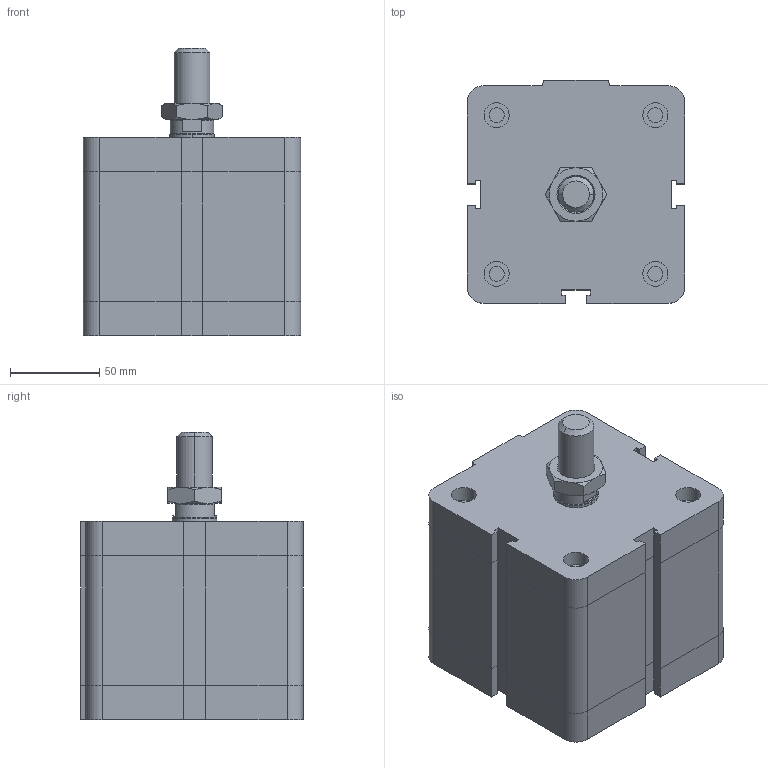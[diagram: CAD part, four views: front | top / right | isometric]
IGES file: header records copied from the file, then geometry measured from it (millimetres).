
Global section: file name: No Iges File Name specified; native system: Autodesk Inventor 2009; preprocessor: AutoDesk Inventor Iges Exporter R2009; author: rivolro1; date: 20081219.160955; units: millimetre
Bounding box: 122 x 125 x 161.5 mm (x, y, z)
Volume: 1632070.8 mm3; surface area: 113917.7 mm2
Topology: 3 solids, 3 shells, 216 faces, 472 edges, 282 vertices
Faces by surface type: plane 121, bspline 37, cylinder 20, cone 20, revolution 18
